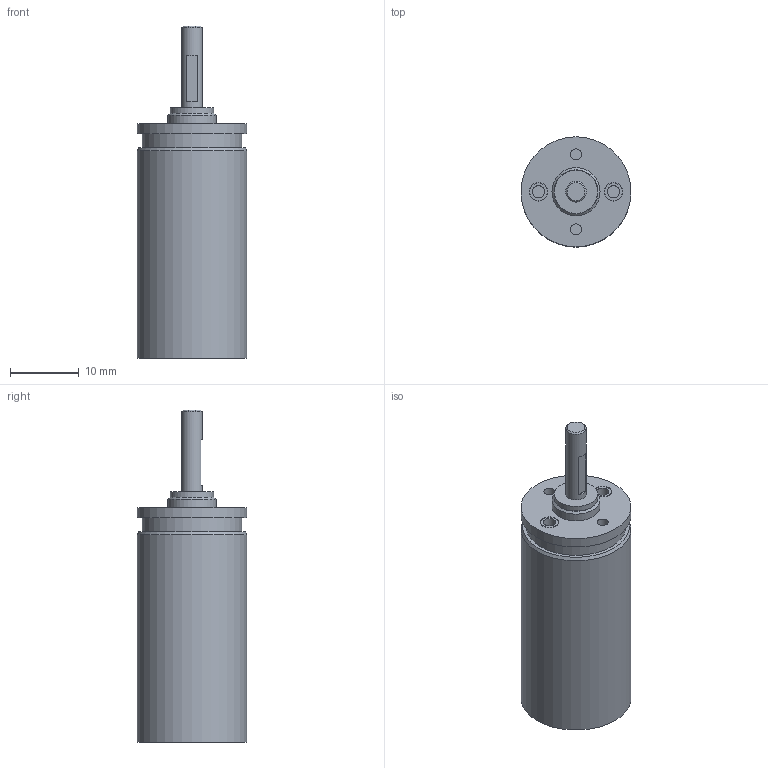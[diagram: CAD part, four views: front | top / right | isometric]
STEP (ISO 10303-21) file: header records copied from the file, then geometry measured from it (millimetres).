
FILE_DESCRIPTION(/* description */ (''),/* implementation_level */ '2;1');
FILE_NAME(/* name */ '15-5_5.stp',/* time_stamp */ '2016-08-24T14:13:58+02:00',/* author */ ('DR. FRITZ FAULHABER GmbH & Co. KG'),/* organization */ ('DR. FRITZ FAULHABER GmbH & Co. KG'),/* preprocessor_version */ 'ST-DEVELOPER v16',/* originating_system */ 'SIEMENS PLM Software NX 10.0',/* authorisation */ '');
FILE_SCHEMA (('AUTOMOTIVE_DESIGN { 1 0 10303 214 3 1 1 1 }'));
Length unit declared in the file: millimetre
Products named in the file (1): H00000511_A
Bounding box: 16 x 16 x 48.3 mm (x, y, z)
Volume: 4580.5 mm3; surface area: 3048.1 mm2
Topology: 1 solids, 1 shells, 41 faces, 64 edges, 42 vertices
Faces by surface type: plane 21, cylinder 17, cone 3
Full cylindrical faces by diameter (mm): 1.6 x2, 1.8 x2, 2.48 x1, 2.584 x2, 2.684 x2, 3 x1, 6 x1, 6.3 x1, 7 x1, 14.5 x1, 15 x1, 16 x2
Entity records: 856 total; most frequent: DIRECTION 166, CARTESIAN_POINT 126, ORIENTED_EDGE 86, AXIS2_PLACEMENT_3D 81, EDGE_LOOP 78, FACE_BOUND 69, EDGE_CURVE 43, ADVANCED_FACE 41
